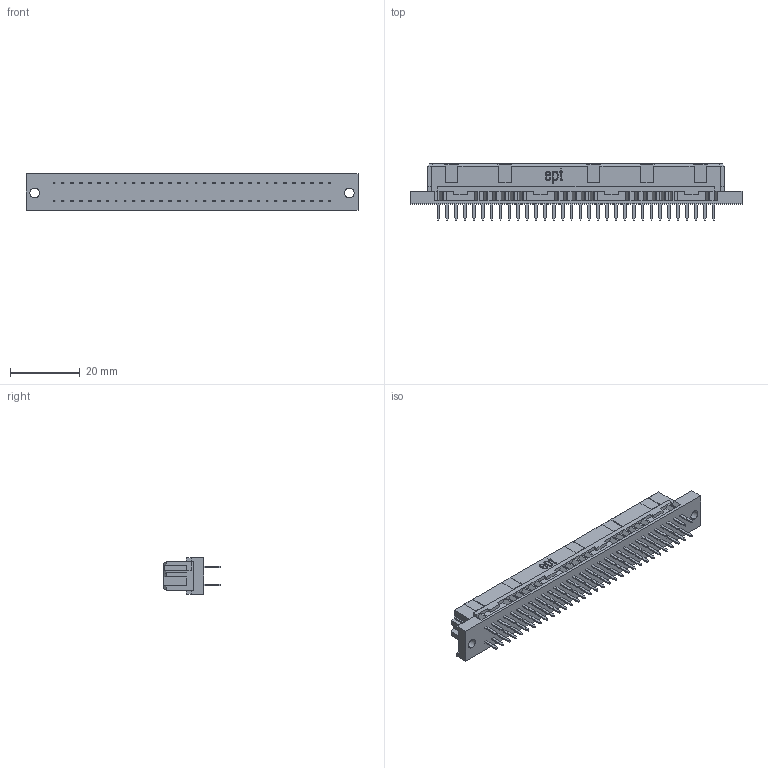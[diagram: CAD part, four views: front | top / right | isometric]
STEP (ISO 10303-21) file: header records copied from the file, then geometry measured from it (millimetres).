
FILE_DESCRIPTION (( 'STEP AP214' ), '1' );
FILE_NAME ('304-40054-02.STEP', '2017-04-21T10:24:53', ( '' ), ( '' ), 'SwSTEP 2.0', 'SolidWorks 2016', '' );
FILE_SCHEMA (( 'AUTOMOTIVE_DESIGN' ));
Length unit declared in the file: millimetre
Products named in the file (1): 304-40054-02
Bounding box: 95 x 16.05 x 10.5 mm (x, y, z)
Volume: 8806.6 mm3; surface area: 5582.6 mm2
Topology: 1 solids, 1 shells, 1699 faces, 4086 edges, 2590 vertices
Faces by surface type: plane 1674, bspline 21, cylinder 4
Entity records: 67685 total; most frequent: CARTESIAN_POINT 9685, ORIENTED_EDGE 8172, DIRECTION 7410, EDGE_CURVE 4086, LINE 4036, VECTOR 4036, VERTEX_POINT 2590, EDGE_LOOP 1904
